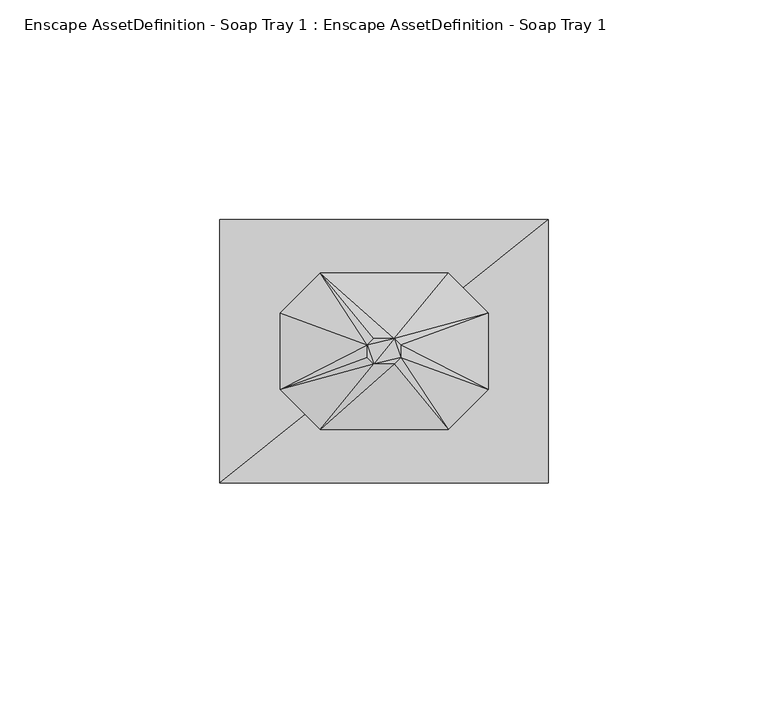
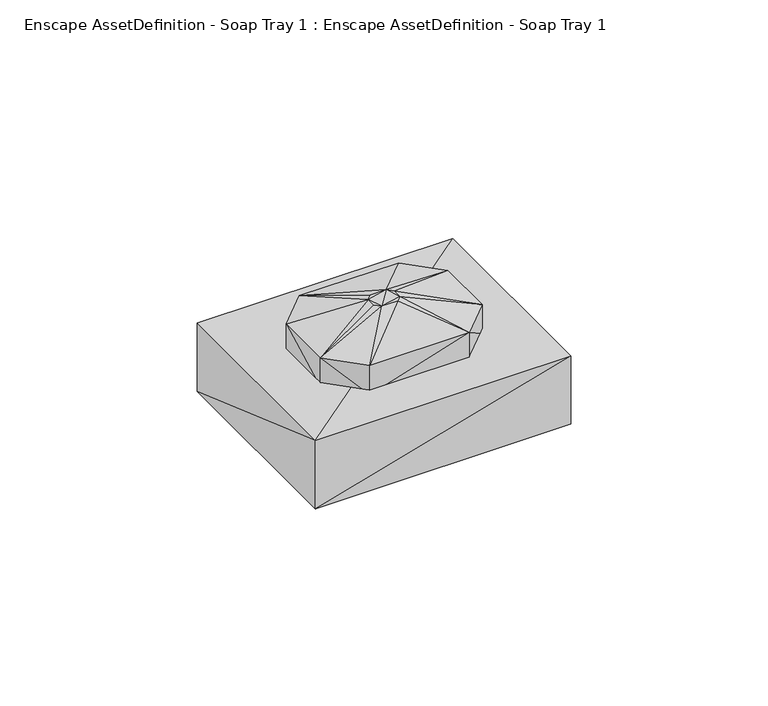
"""IFC4 building model written with IfcOpenShell, lengths in millimetres: geographic element geometry, Enscape AssetDefinition - Soap Tray 1 : Enscape AssetDefinition - Soap Tray 1."""

from ifc_helpers import new_model, si_unit, origin, place, context, project, spatial, faceted_brep, source, transform, mapped, element, save


def enscape_assetdefinition_soap_tray_1_enscape_assetdefinition_739b70c8(model_context):
    return source(origin(), model_context, "Body", "Brep", [
        faceted_brep([(37.3607986, 30.0000012, 0.0), (-37.4381989, -30.0000012, 0.0), (-37.4381989, 30.0000012, 0.0), (37.3607986, -30.0000012, 0.0), (37.3607986, 30.0000012, 21.0599992), (-37.4381989, -30.0000012, 21.0599992), (37.3607986, -30.0000012, 21.0599992), (-37.4381989, 30.0000012, 21.0599992)], [[[0, 1, 2]], [[1, 0, 3]], [[4, 5, 6]], [[5, 4, 7]], [[6, 1, 3]], [[1, 6, 5]], [[4, 3, 0]], [[3, 4, 6]], [[7, 0, 2]], [[0, 7, 4]], [[5, 2, 1]], [[2, 5, 7]]]),
        faceted_brep([(14.5667996, -17.8206004, 28.9548002), (-14.5667996, -17.8206004, 19.9085996), (14.5667996, -17.8206004, 19.9085996), (-14.5667996, -17.8206004, 28.9548002), (-23.7029996, -8.6843995, 28.9548002), (-23.7029996, -8.6843995, 19.9085996), (-11.6363997, -14.2356008, 16.6865997), (-18.9348012, -6.9372002, 16.6865997), (2.3447999, -2.8686, 33.9876004), (-2.3447999, -2.8686, 33.9876004), (3.8154002, -1.3979999, 33.9876004), (-3.8154002, 1.3979999, 33.9876004), (-3.8154002, -1.3979999, 33.9876004), (2.3447999, 2.8686, 33.9876004), (3.8154002, 1.3979999, 33.9876004), (23.7029996, -8.6843995, 28.9548002), (23.7029996, 8.6843995, 28.9548002), (23.7029996, 8.6843995, 19.9085996), (23.7029996, -8.6843995, 19.9085996), (18.9348012, -6.9372002, 16.6865997), (11.6363997, -14.2356008, 16.6865997), (14.5667996, 17.8206004, 19.9085996), (18.9348012, 6.9372002, 16.6865997), (14.5667996, 17.8206004, 28.9548002), (-14.5667996, 17.8206004, 19.9085996), (11.6363997, 14.2356008, 16.6865997), (-11.6363997, 14.2356008, 16.6865997), (-14.5667996, 17.8206004, 28.9548002), (-23.7029996, 8.6843995, 19.9085996), (-2.3447999, 2.8686, 33.9876004), (-23.7029996, 8.6843995, 28.9548002), (-18.9348012, 6.9372002, 16.6865997)], [[[0, 1, 2]], [[1, 0, 3]], [[1, 4, 5]], [[4, 1, 3]], [[6, 2, 1]], [[1, 7, 6]], [[7, 1, 5]], [[3, 8, 9]], [[8, 3, 0]], [[9, 4, 3]], [[9, 8, 10]], [[0, 10, 8]], [[9, 11, 12]], [[9, 13, 11]], [[9, 10, 13]], [[4, 9, 12]], [[13, 10, 14]], [[15, 14, 10]], [[10, 0, 15]], [[14, 15, 16]], [[16, 13, 14]], [[15, 17, 16]], [[17, 15, 18]], [[0, 18, 15]], [[18, 0, 2]], [[19, 17, 18]], [[18, 20, 19]], [[20, 18, 2]], [[21, 16, 17]], [[17, 19, 22]], [[22, 21, 17]], [[16, 21, 23]], [[13, 16, 23]], [[24, 23, 21]], [[25, 24, 21]], [[21, 22, 25]], [[22, 26, 25]], [[20, 22, 19]], [[20, 26, 22]], [[24, 25, 26]], [[23, 24, 27]], [[28, 27, 24]], [[26, 28, 24]], [[27, 13, 23]], [[11, 13, 29]], [[13, 27, 29]], [[27, 28, 30]], [[27, 11, 29]], [[11, 27, 30]], [[5, 30, 28]], [[31, 5, 28]], [[28, 26, 31]], [[7, 31, 26]], [[7, 26, 20]], [[5, 31, 7]], [[30, 5, 4]], [[4, 11, 30]], [[11, 4, 12]], [[7, 20, 6]], [[2, 6, 20]]]),
    ])


if __name__ == "__main__":
    model = new_model("IFC4")
    model_context = context("Model", 3, world=origin())
    ifc_project = project(units=[si_unit("LENGTHUNIT", "METRE", prefix="MILLI")], contexts=[model_context])
    site = spatial("IfcSite", under=ifc_project)
    building = spatial("IfcBuilding", under=site)
    placement = place(None, origin())
    enscape_assetdefinition_soap_tray_1_enscape_assetdefinition_shape = enscape_assetdefinition_soap_tray_1_enscape_assetdefinition_739b70c8(model_context)
    element("IfcGeographicElement", 1, ObjectType="Enscape AssetDefinition - Soap Tray 1 : Enscape AssetDefinition - Soap Tray 1", at=placement, inside=building, context=model_context, shape_type="MappedRepresentation", body=[
        mapped(enscape_assetdefinition_soap_tray_1_enscape_assetdefinition_shape, transform((0.0, 0.0, 0.0), x_axis=(1.0, 0.0, 0.0), y_axis=(0.0, 1.0, 0.0), z_axis=(0.0, 0.0, 1.0))),
    ])
    save(model, "model.ifc")
